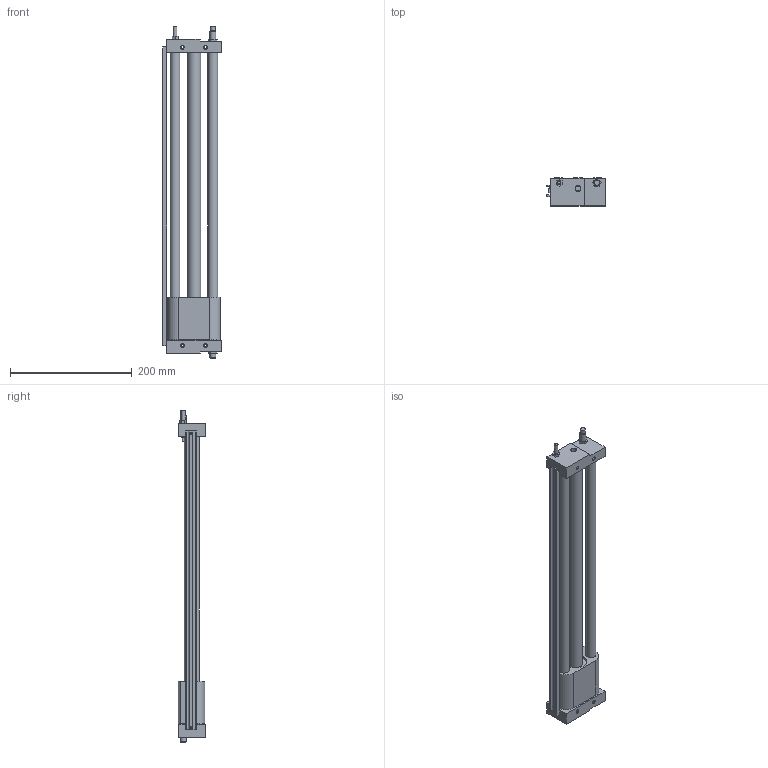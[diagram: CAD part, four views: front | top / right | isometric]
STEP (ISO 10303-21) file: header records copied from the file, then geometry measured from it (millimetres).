
FILE_DESCRIPTION( ( 'STEP AP214' ), '1' );
FILE_NAME( 'C:/Users/EMC02301/Desktop/729/ESWT20X400-S-BS.stp', '2026-07-29T04:42:01', ( 'License CC BY-ND 4.0' ), ( 'CADENAS' ), ' ', 'PARTsolutions', ' ' );
FILE_SCHEMA( ( 'AUTOMOTIVE_DESIGN { 1 0 10303 214 1 1 1 1 }' ) );
Length unit declared in the file: millimetre
Products named in the file (4): ESWT20X400-S-BS()(0); _ESWT20X400-S-BS(0)()_dummy; _ESWT20X400-S-BS(0)()_ROD; _ESWT20X400(0)()_BODY
Assembly tree (3 placements, depth 2):
  ESWT20X400-S-BS()(0)
    _ESWT20X400-S-BS(0)()_dummy
    _ESWT20X400-S-BS(0)()_ROD
    _ESWT20X400(0)()_BODY
Bounding box: 96.5 x 46 x 545.5 mm (x, y, z)
Volume: 758124.2 mm3; surface area: 181521.4 mm2
Topology: 2 solids, 5 shells, 186 faces, 403 edges, 261 vertices
Faces by surface type: plane 103, cylinder 47, cone 34, torus 2
Full cylindrical faces by diameter (mm): 3 x1, 3.5 x2, 4.134 x4, 4.917 x9, 5.5 x4, 5.8 x2, 6 x2, 8.5 x1, 8.566 x2, 9.5 x4, 9.6 x2, 10 x3, 16 x4, 22.8 x2, 38 x2
Entity records: 6137 total; most frequent: DIRECTION 821, CARTESIAN_POINT 748, ORIENTED_EDGE 620, EDGE_LOOP 323, AXIS2_PLACEMENT_3D 321, EDGE_CURVE 310, VERTEX_POINT 247, FACE_OUTER_BOUND 232
